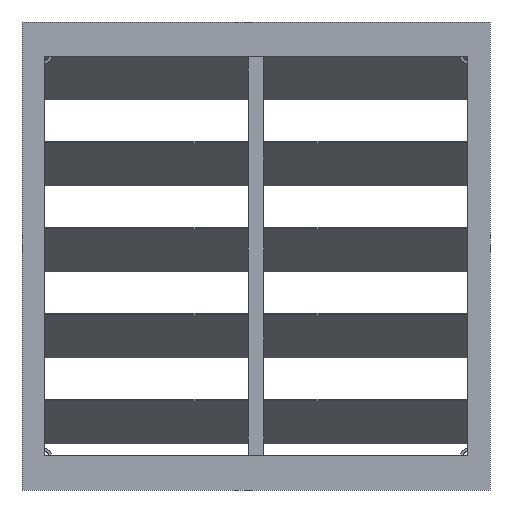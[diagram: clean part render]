
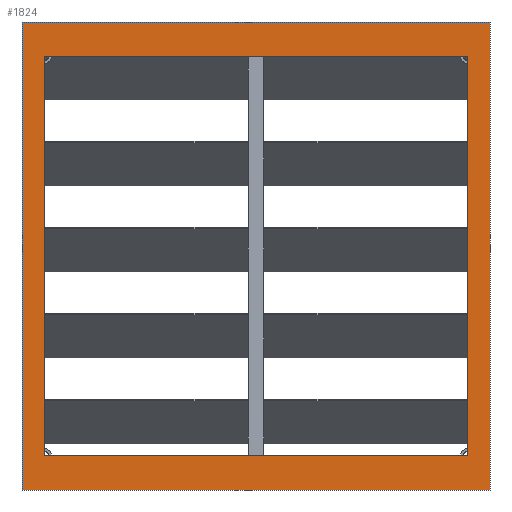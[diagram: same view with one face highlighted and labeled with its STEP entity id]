
A CAD part, front view. The second image highlights one B-rep face of the part: STEP entity #1824.
In plain terms, the highlighted planar face has unit normal (0, -1, 0).
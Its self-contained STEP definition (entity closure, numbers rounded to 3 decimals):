
#44=FACE_BOUND('',#246,.T.);
#148=FACE_OUTER_BOUND('',#245,.T.);
#245=EDGE_LOOP('',(#1639,#1640,#1641,#1642));
#246=EDGE_LOOP('',(#1643,#1644,#1645,#1646));
#420=LINE('',#2765,#652);
#460=LINE('',#2874,#692);
#472=LINE('',#2913,#704);
#474=LINE('',#2916,#706);
#475=LINE('',#2920,#707);
#476=LINE('',#2922,#708);
#477=LINE('',#2924,#709);
#478=LINE('',#2925,#710);
#652=VECTOR('',#2230,10.);
#692=VECTOR('',#2348,10.);
#704=VECTOR('',#2402,10.);
#706=VECTOR('',#2406,10.);
#707=VECTOR('',#2409,10.);
#708=VECTOR('',#2410,10.);
#709=VECTOR('',#2411,10.);
#710=VECTOR('',#2412,10.);
#831=VERTEX_POINT('',#2762);
#832=VERTEX_POINT('',#2764);
#862=VERTEX_POINT('',#2873);
#868=VERTEX_POINT('',#2912);
#869=VERTEX_POINT('',#2918);
#870=VERTEX_POINT('',#2919);
#871=VERTEX_POINT('',#2921);
#872=VERTEX_POINT('',#2923);
#1050=EDGE_CURVE('',#832,#831,#420,.T.);
#1105=EDGE_CURVE('',#862,#832,#460,.T.);
#1124=EDGE_CURVE('',#868,#862,#472,.T.);
#1126=EDGE_CURVE('',#831,#868,#474,.T.);
#1127=EDGE_CURVE('',#869,#870,#475,.T.);
#1128=EDGE_CURVE('',#870,#871,#476,.T.);
#1129=EDGE_CURVE('',#871,#872,#477,.T.);
#1130=EDGE_CURVE('',#872,#869,#478,.T.);
#1639=ORIENTED_EDGE('',*,*,#1127,.T.);
#1640=ORIENTED_EDGE('',*,*,#1128,.T.);
#1641=ORIENTED_EDGE('',*,*,#1129,.T.);
#1642=ORIENTED_EDGE('',*,*,#1130,.T.);
#1643=ORIENTED_EDGE('',*,*,#1124,.T.);
#1644=ORIENTED_EDGE('',*,*,#1105,.T.);
#1645=ORIENTED_EDGE('',*,*,#1050,.T.);
#1646=ORIENTED_EDGE('',*,*,#1126,.T.);
#1736=PLANE('',#1950);
#1824=ADVANCED_FACE('',(#148,#44),#1736,.T.);
#1950=AXIS2_PLACEMENT_3D('',#2917,#2407,#2408);
#2230=DIRECTION('',(0.,0.,1.));
#2348=DIRECTION('',(-1.,0.,0.));
#2402=DIRECTION('',(0.,0.,-1.));
#2406=DIRECTION('',(1.,0.,0.));
#2407=DIRECTION('center_axis',(0.,-1.,0.));
#2408=DIRECTION('ref_axis',(0.,0.,-1.));
#2409=DIRECTION('',(1.,0.,0.));
#2410=DIRECTION('',(0.,0.,1.));
#2411=DIRECTION('',(-1.,0.,0.));
#2412=DIRECTION('',(0.,0.,-1.));
#2762=CARTESIAN_POINT('',(-221.5,-15.,208.5));
#2764=CARTESIAN_POINT('',(-221.5,-15.,-208.5));
#2765=CARTESIAN_POINT('',(-221.5,-15.,-104.25));
#2873=CARTESIAN_POINT('',(221.5,-15.,-208.5));
#2874=CARTESIAN_POINT('',(110.75,-15.,-208.5));
#2912=CARTESIAN_POINT('',(221.5,-15.,208.5));
#2913=CARTESIAN_POINT('',(221.5,-15.,104.25));
#2916=CARTESIAN_POINT('',(-110.75,-15.,208.5));
#2917=CARTESIAN_POINT('Origin',(0.,-15.,0.));
#2918=CARTESIAN_POINT('',(-245.,-15.,-245.));
#2919=CARTESIAN_POINT('',(245.,-15.,-245.));
#2920=CARTESIAN_POINT('',(-245.,-15.,-245.));
#2921=CARTESIAN_POINT('',(245.,-15.,245.));
#2922=CARTESIAN_POINT('',(245.,-15.,-245.));
#2923=CARTESIAN_POINT('',(-245.,-15.,245.));
#2924=CARTESIAN_POINT('',(245.,-15.,245.));
#2925=CARTESIAN_POINT('',(-245.,-15.,245.));
